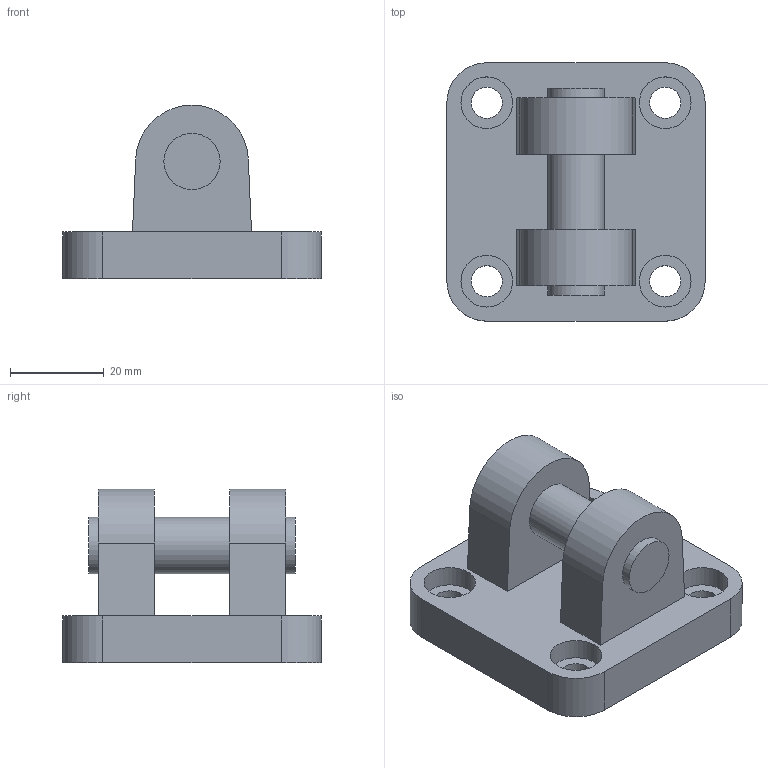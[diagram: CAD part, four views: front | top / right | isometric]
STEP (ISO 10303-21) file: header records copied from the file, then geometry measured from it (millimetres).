
FILE_DESCRIPTION((''),'2;1');
FILE_NAME('K:\A-Roberto\_Inventor\Rev.Librerie\FISSAGGI\1320_Ø_29F\STEP(1320_Ø_29F)\1320_40_29F.stp','2006-07-12T14:10:26',('rivolro1'),(''),'Autodesk Inventor 11','Autodesk Inventor 11','');
FILE_SCHEMA(('AUTOMOTIVE_DESIGN { 1 0 10303 214 1 1 1 1 }'));
Length unit declared in the file: millimetre
Products named in the file (1): 1320_40_29F
Bounding box: 55 x 55 x 37 mm (x, y, z)
Volume: 38931.9 mm3; surface area: 13264.7 mm2
Topology: 1 solids, 1 shells, 39 faces, 84 edges, 56 vertices
Faces by surface type: plane 16, bspline 14, cylinder 9
Full cylindrical faces by diameter (mm): 12 x3
Entity records: 1174 total; most frequent: CARTESIAN_POINT 336, DIRECTION 160, ORIENTED_EDGE 144, EDGE_CURVE 72, EDGE_LOOP 70, AXIS2_PLACEMENT_3D 62, VERTEX_POINT 56, FACE_OUTER_BOUND 39
